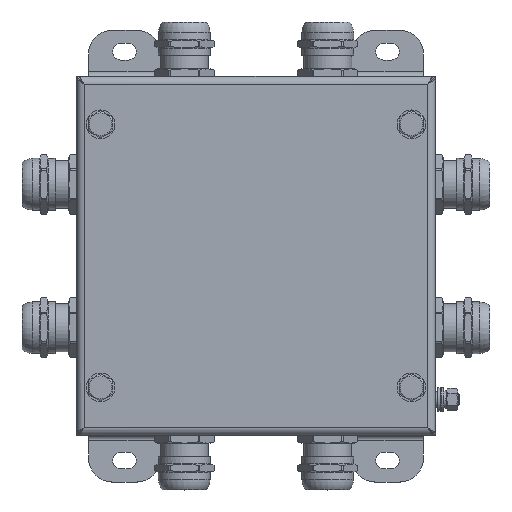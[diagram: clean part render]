
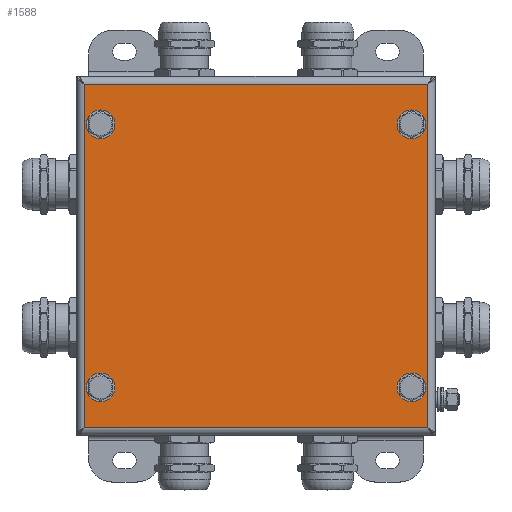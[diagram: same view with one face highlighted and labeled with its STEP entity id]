
A CAD part, top view. The second image highlights one B-rep face of the part: STEP entity #1588.
In plain terms, the highlighted planar face has unit normal (0, 0, 1).
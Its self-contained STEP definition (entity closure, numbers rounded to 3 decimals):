
#1588=ADVANCED_FACE('',(#11163,#11165,#11167,#11169,#11171),#11173,.T.);
#11163=FACE_BOUND('',#11164,.T.);
#11164=EDGE_LOOP('',(#16128,#16129,#16130,#16131));
#11165=FACE_BOUND('',#11166,.T.);
#11166=EDGE_LOOP('',(#16132));
#11167=FACE_BOUND('',#11168,.T.);
#11168=EDGE_LOOP('',(#16133));
#11169=FACE_BOUND('',#11170,.T.);
#11170=EDGE_LOOP('',(#16134));
#11171=FACE_BOUND('',#11172,.T.);
#11172=EDGE_LOOP('',(#16135));
#11173=PLANE('',#11174);
#11174=AXIS2_PLACEMENT_3D('',#11175,#11176,#11177);
#11175=CARTESIAN_POINT('',(0.,0.,61.5));
#11176=DIRECTION('',(0.,-0.,1.));
#11177=DIRECTION('',(0.,1.,0.));
#16128=ORIENTED_EDGE('',*,*,#19767,.T.);
#16129=ORIENTED_EDGE('',*,*,#19768,.T.);
#16130=ORIENTED_EDGE('',*,*,#19769,.T.);
#16131=ORIENTED_EDGE('',*,*,#19770,.T.);
#16132=ORIENTED_EDGE('',*,*,#18416,.T.);
#16133=ORIENTED_EDGE('',*,*,#18410,.T.);
#16134=ORIENTED_EDGE('',*,*,#18404,.T.);
#16135=ORIENTED_EDGE('',*,*,#18398,.T.);
#18398=EDGE_CURVE('',#24963,#24963,#24964,.F.);
#18404=EDGE_CURVE('',#24975,#24975,#24976,.F.);
#18410=EDGE_CURVE('',#24987,#24987,#24988,.F.);
#18416=EDGE_CURVE('',#24999,#24999,#25000,.F.);
#19767=EDGE_CURVE('',#25681,#25682,#25683,.T.);
#19768=EDGE_CURVE('',#25682,#25684,#25685,.T.);
#19769=EDGE_CURVE('',#25684,#25686,#25687,.T.);
#19770=EDGE_CURVE('',#25686,#25681,#25688,.T.);
#24963=VERTEX_POINT('',#27396);
#24964=CIRCLE('',#27397,6.);
#24975=VERTEX_POINT('',#27426);
#24976=CIRCLE('',#27427,6.);
#24987=VERTEX_POINT('',#27456);
#24988=CIRCLE('',#27457,6.);
#24999=VERTEX_POINT('',#27486);
#25000=CIRCLE('',#27487,6.);
#25681=VERTEX_POINT('',#29064);
#25682=VERTEX_POINT('',#29065);
#25683=LINE('',#29066,#29067);
#25684=VERTEX_POINT('',#29069);
#25685=LINE('',#29070,#29071);
#25686=VERTEX_POINT('',#29073);
#25687=LINE('',#29074,#29075);
#25688=LINE('',#29077,#29078);
#27396=CARTESIAN_POINT('',(71.,55.,61.5));
#27397=AXIS2_PLACEMENT_3D('',#27398,#27399,#27400);
#27398=CARTESIAN_POINT('',(65.,55.,61.5));
#27399=DIRECTION('',(0.,-0.,1.));
#27400=DIRECTION('',(1.,0.,0.));
#27426=CARTESIAN_POINT('',(-59.,55.,61.5));
#27427=AXIS2_PLACEMENT_3D('',#27428,#27429,#27430);
#27428=CARTESIAN_POINT('',(-65.,55.,61.5));
#27429=DIRECTION('',(0.,-0.,1.));
#27430=DIRECTION('',(1.,0.,0.));
#27456=CARTESIAN_POINT('',(71.,-55.,61.5));
#27457=AXIS2_PLACEMENT_3D('',#27458,#27459,#27460);
#27458=CARTESIAN_POINT('',(65.,-55.,61.5));
#27459=DIRECTION('',(0.,-0.,1.));
#27460=DIRECTION('',(1.,0.,0.));
#27486=CARTESIAN_POINT('',(-59.,-55.,61.5));
#27487=AXIS2_PLACEMENT_3D('',#27488,#27489,#27490);
#27488=CARTESIAN_POINT('',(-65.,-55.,61.5));
#27489=DIRECTION('',(0.,-0.,1.));
#27490=DIRECTION('',(1.,0.,0.));
#29064=CARTESIAN_POINT('',(-71.8,71.8,61.5));
#29065=CARTESIAN_POINT('',(-71.8,-71.8,61.5));
#29066=CARTESIAN_POINT('',(-71.8,71.8,61.5));
#29067=VECTOR('',#29068,1.);
#29068=DIRECTION('',(0.,-1.,0.));
#29069=CARTESIAN_POINT('',(71.8,-71.8,61.5));
#29070=CARTESIAN_POINT('',(-71.8,-71.8,61.5));
#29071=VECTOR('',#29072,1.);
#29072=DIRECTION('',(1.,0.,0.));
#29073=CARTESIAN_POINT('',(71.8,71.8,61.5));
#29074=CARTESIAN_POINT('',(71.8,-71.8,61.5));
#29075=VECTOR('',#29076,1.);
#29076=DIRECTION('',(0.,1.,0.));
#29077=CARTESIAN_POINT('',(71.8,71.8,61.5));
#29078=VECTOR('',#29079,1.);
#29079=DIRECTION('',(-1.,0.,0.));
